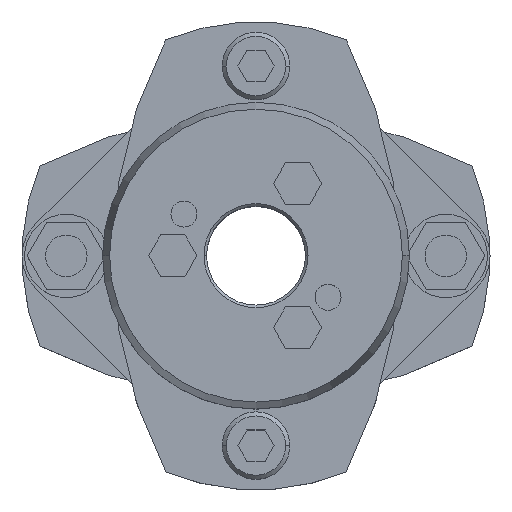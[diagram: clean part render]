
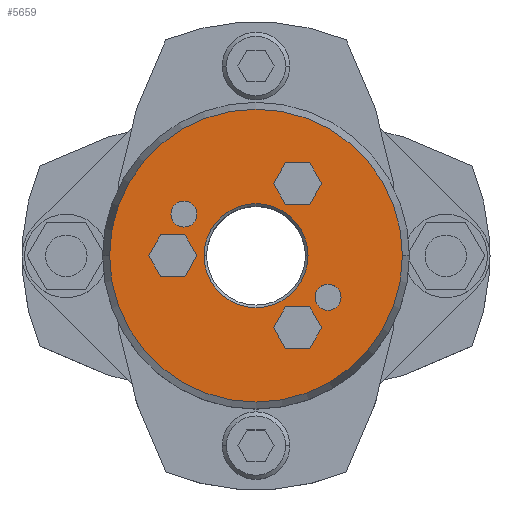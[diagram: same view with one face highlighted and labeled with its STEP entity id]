
A CAD part, top view. The second image highlights one B-rep face of the part: STEP entity #5659.
In plain terms, the highlighted planar face has unit normal (0, 0, 1).
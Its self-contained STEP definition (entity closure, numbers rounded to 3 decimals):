
#857=CARTESIAN_POINT('',(-10.,0.,39.25));
#858=VERTEX_POINT('',#857);
#874=CARTESIAN_POINT('',(10.,0.,39.25));
#875=VERTEX_POINT('',#874);
#882=CARTESIAN_POINT('',(0.,0.,39.25));
#883=DIRECTION('',(0.0,0.0,1.0));
#884=DIRECTION('',(-1.0,0.0,0.0));
#885=AXIS2_PLACEMENT_3D('',#882,#883,#884);
#886=CIRCLE('',#885,10.0);
#887=EDGE_CURVE('',#875,#858,#886,.T.);
#1045=CARTESIAN_POINT('',(28.16,0.,39.25));
#1046=VERTEX_POINT('',#1045);
#1053=CARTESIAN_POINT('',(-28.16,0.,39.25));
#1054=VERTEX_POINT('',#1053);
#1055=CARTESIAN_POINT('',(0.,0.,39.25));
#1056=DIRECTION('',(0.0,0.0,-1.0));
#1057=DIRECTION('',(1.0,0.0,0.0));
#1058=AXIS2_PLACEMENT_3D('',#1055,#1056,#1057);
#1059=CIRCLE('',#1058,28.16);
#1060=EDGE_CURVE('',#1046,#1054,#1059,.T.);
#1303=CARTESIAN_POINT('',(-16.356,8.,39.25));
#1304=VERTEX_POINT('',#1303);
#1320=CARTESIAN_POINT('',(-11.356,8.,39.25));
#1321=VERTEX_POINT('',#1320);
#1328=CARTESIAN_POINT('',(-13.856,8.,39.25));
#1329=DIRECTION('',(0.0,0.0,-1.0));
#1330=DIRECTION('',(-1.0,0.0,0.0));
#1331=AXIS2_PLACEMENT_3D('',#1328,#1329,#1330);
#1332=CIRCLE('',#1331,2.5);
#1333=EDGE_CURVE('',#1304,#1321,#1332,.T.);
#1345=CARTESIAN_POINT('',(11.356,-8.,39.25));
#1346=VERTEX_POINT('',#1345);
#1362=CARTESIAN_POINT('',(16.356,-8.,39.25));
#1363=VERTEX_POINT('',#1362);
#1370=CARTESIAN_POINT('',(13.856,-8.,39.25));
#1371=DIRECTION('',(0.0,0.0,-1.0));
#1372=DIRECTION('',(-1.0,0.0,0.0));
#1373=AXIS2_PLACEMENT_3D('',#1370,#1371,#1372);
#1374=CIRCLE('',#1373,2.5);
#1375=EDGE_CURVE('',#1346,#1363,#1374,.T.);
#4175=CARTESIAN_POINT('',(3.381,13.856,39.25));
#4176=VERTEX_POINT('',#4175);
#4183=CARTESIAN_POINT('',(5.691,9.856,39.25));
#4184=VERTEX_POINT('',#4183);
#4185=CARTESIAN_POINT('',(5.691,9.856,39.25));
#4186=DIRECTION('',(-0.5,0.866,0.0));
#4187=VECTOR('',#4186,4.619);
#4188=LINE('',#4185,#4187);
#4189=EDGE_CURVE('',#4184,#4176,#4188,.T.);
#4213=CARTESIAN_POINT('',(5.691,17.856,39.25));
#4214=VERTEX_POINT('',#4213);
#4221=CARTESIAN_POINT('',(3.381,13.856,39.25));
#4222=DIRECTION('',(0.5,0.866,0.0));
#4223=VECTOR('',#4222,4.619);
#4224=LINE('',#4221,#4223);
#4225=EDGE_CURVE('',#4176,#4214,#4224,.T.);
#4244=CARTESIAN_POINT('',(10.309,17.856,39.25));
#4245=VERTEX_POINT('',#4244);
#4252=CARTESIAN_POINT('',(5.691,17.856,39.25));
#4253=DIRECTION('',(1.0,0.0,0.0));
#4254=VECTOR('',#4253,4.619);
#4255=LINE('',#4252,#4254);
#4256=EDGE_CURVE('',#4214,#4245,#4255,.T.);
#4275=CARTESIAN_POINT('',(12.619,13.856,39.25));
#4276=VERTEX_POINT('',#4275);
#4283=CARTESIAN_POINT('',(10.309,17.856,39.25));
#4284=DIRECTION('',(0.5,-0.866,0.0));
#4285=VECTOR('',#4284,4.619);
#4286=LINE('',#4283,#4285);
#4287=EDGE_CURVE('',#4245,#4276,#4286,.T.);
#4306=CARTESIAN_POINT('',(10.309,9.856,39.25));
#4307=VERTEX_POINT('',#4306);
#4314=CARTESIAN_POINT('',(12.619,13.856,39.25));
#4315=DIRECTION('',(-0.5,-0.866,0.0));
#4316=VECTOR('',#4315,4.619);
#4317=LINE('',#4314,#4316);
#4318=EDGE_CURVE('',#4276,#4307,#4317,.T.);
#4336=CARTESIAN_POINT('',(10.309,9.856,39.25));
#4337=DIRECTION('',(-1.0,0.0,0.0));
#4338=VECTOR('',#4337,4.619);
#4339=LINE('',#4336,#4338);
#4340=EDGE_CURVE('',#4307,#4184,#4339,.T.);
#4375=CARTESIAN_POINT('',(-20.619,0.,39.25));
#4376=VERTEX_POINT('',#4375);
#4383=CARTESIAN_POINT('',(-18.309,-4.,39.25));
#4384=VERTEX_POINT('',#4383);
#4385=CARTESIAN_POINT('',(-18.309,-4.,39.25));
#4386=DIRECTION('',(-0.5,0.866,0.0));
#4387=VECTOR('',#4386,4.619);
#4388=LINE('',#4385,#4387);
#4389=EDGE_CURVE('',#4384,#4376,#4388,.T.);
#4413=CARTESIAN_POINT('',(-18.309,4.,39.25));
#4414=VERTEX_POINT('',#4413);
#4421=CARTESIAN_POINT('',(-20.619,0.,39.25));
#4422=DIRECTION('',(0.5,0.866,0.0));
#4423=VECTOR('',#4422,4.619);
#4424=LINE('',#4421,#4423);
#4425=EDGE_CURVE('',#4376,#4414,#4424,.T.);
#4444=CARTESIAN_POINT('',(-13.691,4.,39.25));
#4445=VERTEX_POINT('',#4444);
#4452=CARTESIAN_POINT('',(-18.309,4.,39.25));
#4453=DIRECTION('',(1.0,0.0,0.0));
#4454=VECTOR('',#4453,4.619);
#4455=LINE('',#4452,#4454);
#4456=EDGE_CURVE('',#4414,#4445,#4455,.T.);
#4475=CARTESIAN_POINT('',(-11.381,0.,39.25));
#4476=VERTEX_POINT('',#4475);
#4483=CARTESIAN_POINT('',(-13.691,4.,39.25));
#4484=DIRECTION('',(0.5,-0.866,0.0));
#4485=VECTOR('',#4484,4.619);
#4486=LINE('',#4483,#4485);
#4487=EDGE_CURVE('',#4445,#4476,#4486,.T.);
#4506=CARTESIAN_POINT('',(-13.691,-4.,39.25));
#4507=VERTEX_POINT('',#4506);
#4514=CARTESIAN_POINT('',(-11.381,0.,39.25));
#4515=DIRECTION('',(-0.5,-0.866,0.0));
#4516=VECTOR('',#4515,4.619);
#4517=LINE('',#4514,#4516);
#4518=EDGE_CURVE('',#4476,#4507,#4517,.T.);
#4536=CARTESIAN_POINT('',(-13.691,-4.,39.25));
#4537=DIRECTION('',(-1.0,0.0,0.0));
#4538=VECTOR('',#4537,4.619);
#4539=LINE('',#4536,#4538);
#4540=EDGE_CURVE('',#4507,#4384,#4539,.T.);
#4575=CARTESIAN_POINT('',(3.381,-13.856,39.25));
#4576=VERTEX_POINT('',#4575);
#4583=CARTESIAN_POINT('',(5.691,-17.856,39.25));
#4584=VERTEX_POINT('',#4583);
#4585=CARTESIAN_POINT('',(5.691,-17.856,39.25));
#4586=DIRECTION('',(-0.5,0.866,0.0));
#4587=VECTOR('',#4586,4.619);
#4588=LINE('',#4585,#4587);
#4589=EDGE_CURVE('',#4584,#4576,#4588,.T.);
#4613=CARTESIAN_POINT('',(5.691,-9.856,39.25));
#4614=VERTEX_POINT('',#4613);
#4621=CARTESIAN_POINT('',(3.381,-13.856,39.25));
#4622=DIRECTION('',(0.5,0.866,0.0));
#4623=VECTOR('',#4622,4.619);
#4624=LINE('',#4621,#4623);
#4625=EDGE_CURVE('',#4576,#4614,#4624,.T.);
#4644=CARTESIAN_POINT('',(10.309,-9.856,39.25));
#4645=VERTEX_POINT('',#4644);
#4652=CARTESIAN_POINT('',(5.691,-9.856,39.25));
#4653=DIRECTION('',(1.0,0.0,0.0));
#4654=VECTOR('',#4653,4.619);
#4655=LINE('',#4652,#4654);
#4656=EDGE_CURVE('',#4614,#4645,#4655,.T.);
#4675=CARTESIAN_POINT('',(12.619,-13.856,39.25));
#4676=VERTEX_POINT('',#4675);
#4683=CARTESIAN_POINT('',(10.309,-9.856,39.25));
#4684=DIRECTION('',(0.5,-0.866,0.0));
#4685=VECTOR('',#4684,4.619);
#4686=LINE('',#4683,#4685);
#4687=EDGE_CURVE('',#4645,#4676,#4686,.T.);
#4706=CARTESIAN_POINT('',(10.309,-17.856,39.25));
#4707=VERTEX_POINT('',#4706);
#4714=CARTESIAN_POINT('',(12.619,-13.856,39.25));
#4715=DIRECTION('',(-0.5,-0.866,0.0));
#4716=VECTOR('',#4715,4.619);
#4717=LINE('',#4714,#4716);
#4718=EDGE_CURVE('',#4676,#4707,#4717,.T.);
#4736=CARTESIAN_POINT('',(10.309,-17.856,39.25));
#4737=DIRECTION('',(-1.0,0.0,0.0));
#4738=VECTOR('',#4737,4.619);
#4739=LINE('',#4736,#4738);
#4740=EDGE_CURVE('',#4707,#4584,#4739,.T.);
#4766=CARTESIAN_POINT('',(13.856,-8.,39.25));
#4767=DIRECTION('',(0.0,0.0,-1.0));
#4768=DIRECTION('',(-1.0,0.0,0.0));
#4769=AXIS2_PLACEMENT_3D('',#4766,#4767,#4768);
#4770=CIRCLE('',#4769,2.5);
#4771=EDGE_CURVE('',#1363,#1346,#4770,.T.);
#4800=CARTESIAN_POINT('',(-13.856,8.,39.25));
#4801=DIRECTION('',(0.0,0.0,-1.0));
#4802=DIRECTION('',(-1.0,0.0,0.0));
#4803=AXIS2_PLACEMENT_3D('',#4800,#4801,#4802);
#4804=CIRCLE('',#4803,2.5);
#4805=EDGE_CURVE('',#1321,#1304,#4804,.T.);
#5598=CARTESIAN_POINT('',(0.,0.,39.25));
#5599=DIRECTION('',(0.0,0.0,-1.0));
#5600=DIRECTION('',(1.0,0.0,0.0));
#5601=AXIS2_PLACEMENT_3D('',#5598,#5599,#5600);
#5602=CIRCLE('',#5601,28.16);
#5603=EDGE_CURVE('',#1054,#1046,#5602,.T.);
#5608=CARTESIAN_POINT('',(-2.682,0.,39.25));
#5609=DIRECTION('',(0.0,0.0,1.0));
#5610=DIRECTION('',(-1.0,0.0,0.0));
#5611=AXIS2_PLACEMENT_3D('',#5608,#5609,#5610);
#5612=PLANE('',#5611);
#5613=ORIENTED_EDGE('',*,*,#5603,.F.);
#5614=ORIENTED_EDGE('',*,*,#1060,.F.);
#5615=EDGE_LOOP('',(#5613,#5614));
#5616=FACE_OUTER_BOUND('',#5615,.T.);
#5617=ORIENTED_EDGE('',*,*,#4189,.T.);
#5618=ORIENTED_EDGE('',*,*,#4225,.T.);
#5619=ORIENTED_EDGE('',*,*,#4256,.T.);
#5620=ORIENTED_EDGE('',*,*,#4287,.T.);
#5621=ORIENTED_EDGE('',*,*,#4318,.T.);
#5622=ORIENTED_EDGE('',*,*,#4340,.T.);
#5623=EDGE_LOOP('',(#5617,#5618,#5619,#5620,#5621,#5622));
#5624=FACE_BOUND('',#5623,.T.);
#5625=ORIENTED_EDGE('',*,*,#4389,.T.);
#5626=ORIENTED_EDGE('',*,*,#4425,.T.);
#5627=ORIENTED_EDGE('',*,*,#4456,.T.);
#5628=ORIENTED_EDGE('',*,*,#4487,.T.);
#5629=ORIENTED_EDGE('',*,*,#4518,.T.);
#5630=ORIENTED_EDGE('',*,*,#4540,.T.);
#5631=EDGE_LOOP('',(#5625,#5626,#5627,#5628,#5629,#5630));
#5632=FACE_BOUND('',#5631,.T.);
#5633=ORIENTED_EDGE('',*,*,#4589,.T.);
#5634=ORIENTED_EDGE('',*,*,#4625,.T.);
#5635=ORIENTED_EDGE('',*,*,#4656,.T.);
#5636=ORIENTED_EDGE('',*,*,#4687,.T.);
#5637=ORIENTED_EDGE('',*,*,#4718,.T.);
#5638=ORIENTED_EDGE('',*,*,#4740,.T.);
#5639=EDGE_LOOP('',(#5633,#5634,#5635,#5636,#5637,#5638));
#5640=FACE_BOUND('',#5639,.T.);
#5641=ORIENTED_EDGE('',*,*,#1375,.T.);
#5642=ORIENTED_EDGE('',*,*,#4771,.T.);
#5643=EDGE_LOOP('',(#5641,#5642));
#5644=FACE_BOUND('',#5643,.T.);
#5645=ORIENTED_EDGE('',*,*,#1333,.T.);
#5646=ORIENTED_EDGE('',*,*,#4805,.T.);
#5647=EDGE_LOOP('',(#5645,#5646));
#5648=FACE_BOUND('',#5647,.T.);
#5649=ORIENTED_EDGE('',*,*,#887,.F.);
#5650=CARTESIAN_POINT('',(0.,0.,39.25));
#5651=DIRECTION('',(0.0,0.0,1.0));
#5652=DIRECTION('',(-1.0,0.0,0.0));
#5653=AXIS2_PLACEMENT_3D('',#5650,#5651,#5652);
#5654=CIRCLE('',#5653,10.0);
#5655=EDGE_CURVE('',#858,#875,#5654,.T.);
#5656=ORIENTED_EDGE('',*,*,#5655,.F.);
#5657=EDGE_LOOP('',(#5649,#5656));
#5658=FACE_BOUND('',#5657,.T.);
#5659=ADVANCED_FACE('',(#5616,#5624,#5632,#5640,#5644,#5648,#5658),#5612,.T.);
